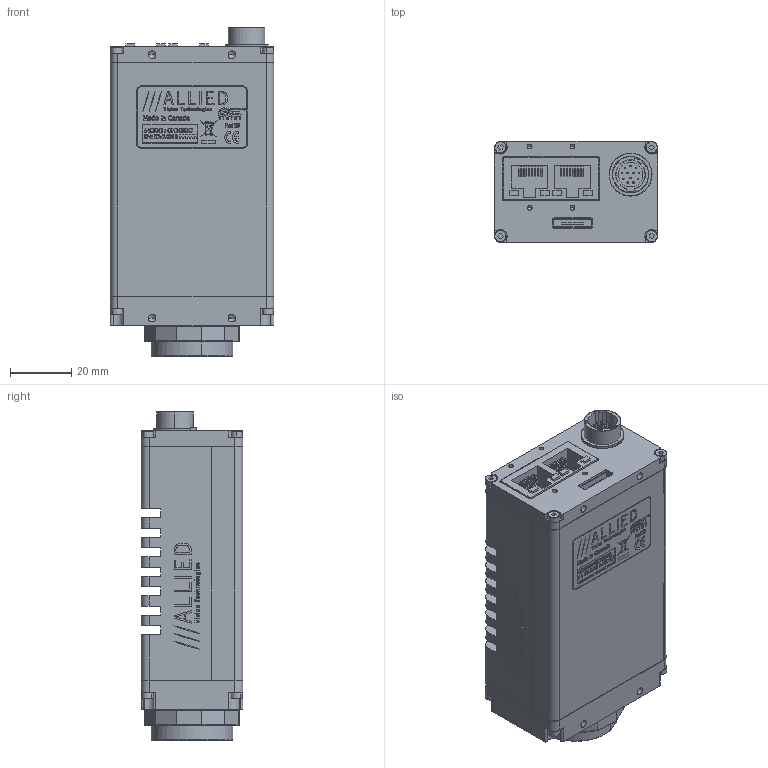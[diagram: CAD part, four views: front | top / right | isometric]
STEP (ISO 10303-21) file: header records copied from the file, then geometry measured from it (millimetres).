
FILE_DESCRIPTION (( 'STEP AP214' ), '1' );
FILE_NAME ('GX1050C.STEP', '2013-08-07T17:54:04', ( '' ), ( '' ), 'SwSTEP 2.0', 'SolidWorks 2013', '' );
FILE_SCHEMA (( 'AUTOMOTIVE_DESIGN' ));
Length unit declared in the file: millimetre
Products named in the file (27): 260034-HIROSE HR10A-10R-12PB WASHER; GX1050C; 260034-HIROSE HR10A-10R-12PB; 260034-HIROSE HR10A-10R-12PB NUT; 200115A-GX POWER PCBA; 260048-HIROSE 3260-8S3; 110100B-GX TOP COVER-THERMAL_Finished; 740102B-GX SERIES LABEL; 100166A - GX1050C FRONT ASSY; 100097A-IR FILTER ASSEMBLY 0.75 INCH; 110054AB-IR FILTER SUPPORT; 440002-IR CUT FILTER 22MM DIA; 110003AC-CV CMOUNT RING; 740111B-GX1050C THERMAL LABEL PRINT; 110031A-B EC-CCD LOCKING RING; 100172B - GX BODY ASSY-THERMAL; 110098A-GX FRONT PLATE; 200114A-GX MAIN PCBA; 220136-KODAK KAI-01050-CBA; 260043-HALO HFJ12-1G16ER-L12RL; KODAK KAI-01050 WINDOW; 110099B-GX BOTTOM COVER-THERMAL_Finished; KODAK KAI-01050 BODY; 110103A-GX CCD GASKET; 100171A - GX BACK ASSY; 140061-SCREW SKT CAP M2x8 SS; 110097A-GX BACK PLATE
Assembly tree (33 placements, depth 4):
  GX1050C
    140061-SCREW SKT CAP M2x8 SS  x4
    100166A - GX1050C FRONT ASSY
      110103A-GX CCD GASKET
      220136-KODAK KAI-01050-CBA
        KODAK KAI-01050 BODY
        KODAK KAI-01050 WINDOW
      110098A-GX FRONT PLATE
      110031A-B EC-CCD LOCKING RING
      110003AC-CV CMOUNT RING
      100097A-IR FILTER ASSEMBLY 0.75 INCH
        440002-IR CUT FILTER 22MM DIA
        110054AB-IR FILTER SUPPORT
    740102B-GX SERIES LABEL
    100172B - GX BODY ASSY-THERMAL
      140061-SCREW SKT CAP M2x8 SS  x4
      110100B-GX TOP COVER-THERMAL_Finished
      200115A-GX POWER PCBA
        260048-HIROSE 3260-8S3
      100171A - GX BACK ASSY
        260034-HIROSE HR10A-10R-12PB NUT
        260034-HIROSE HR10A-10R-12PB
        260034-HIROSE HR10A-10R-12PB WASHER
        110097A-GX BACK PLATE
      110099B-GX BOTTOM COVER-THERMAL_Finished
      200114A-GX MAIN PCBA
        260043-HALO HFJ12-1G16ER-L12RL
    740111B-GX1050C THERMAL LABEL PRINT
Bounding box: 53.39 x 33.02 x 107.17 mm (x, y, z)
Volume: 80209.4 mm3; surface area: 73762.2 mm2
Topology: 70 solids, 70 shells, 4161 faces, 10754 edges, 6988 vertices
Faces by surface type: plane 2273, bspline 901, cylinder 725, cone 262
Entity records: 201261 total; most frequent: CARTESIAN_POINT 61754, ORIENTED_EDGE 20740, DIRECTION 16514, EDGE_CURVE 10370, LINE 6984, VECTOR 6984, VERTEX_POINT 6820, AXIS2_PLACEMENT_3D 4765
